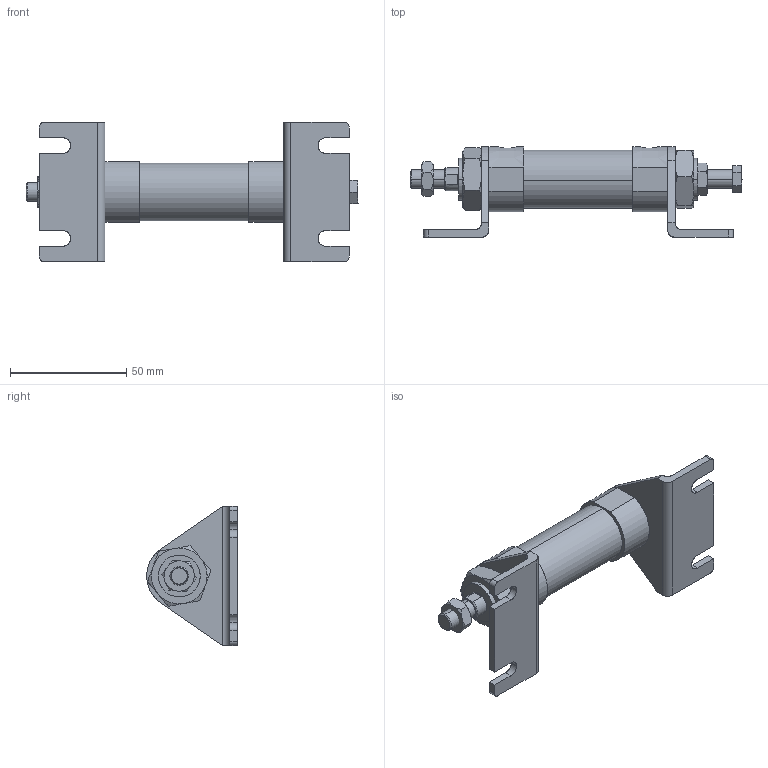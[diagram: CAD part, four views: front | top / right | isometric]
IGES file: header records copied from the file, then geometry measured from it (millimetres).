
Start section: SolidWorks IGES file using analytic representation for surfaces
Global section: file name: C:\Users\Toshiba\Desktop\JGA2-20-15-L.IGS; native system: SolidWorks 2014; preprocessor: SolidWorks 2014; author: Toshiba; date: 160420.130426; units: millimetre
Bounding box: 143 x 39 x 60 mm (x, y, z)
Surface area: 29084.8 mm2 (no closed solid volume)
Topology: 0 solids, 0 shells, 197 faces, 3156 edges, 3156 vertices
Faces by surface type: bspline 139, revolution 58
